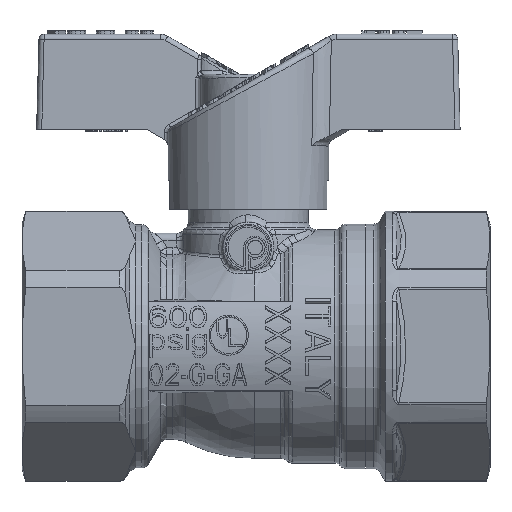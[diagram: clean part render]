
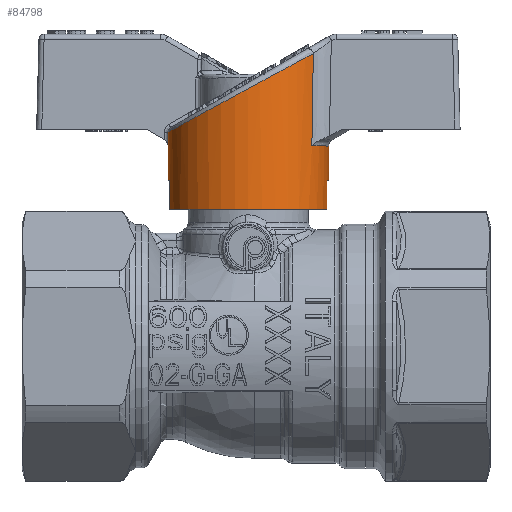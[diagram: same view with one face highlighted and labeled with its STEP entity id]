
A CAD part, top view. The second image highlights one B-rep face of the part: STEP entity #84798.
In plain terms, the highlighted cylindrical face has radius 11 mm (diameter 22 mm), a partial arc.
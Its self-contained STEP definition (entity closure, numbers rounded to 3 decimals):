
#73948=CARTESIAN_POINT('',(0.,8.691,0.));
#73949=DIRECTION('',(0.,-1.,0.));
#73950=DIRECTION('',(-1.,0.,0.));
#73951=AXIS2_PLACEMENT_3D('',#73948,#73949,#73950);
#73953=DIRECTION('',(0.,-1.,0.));
#73954=VECTOR('',#73953,4.691);
#73955=CARTESIAN_POINT('',(-11.,8.691,0.));
#73956=LINE('',#73955,#73954);
#73957=CARTESIAN_POINT('',(0.,4.,0.));
#73958=DIRECTION('',(0.,1.,0.));
#73959=DIRECTION('',(-0.979,0.,-0.205));
#73960=AXIS2_PLACEMENT_3D('',#73957,#73958,#73959);
#73962=DIRECTION('',(0.,1.,0.));
#73963=VECTOR('',#73962,4.);
#73964=CARTESIAN_POINT('',(-10.767,0.,-2.253));
#73965=LINE('',#73964,#73963);
#73966=DIRECTION('',(0.,1.,0.));
#73967=VECTOR('',#73966,4.);
#73968=CARTESIAN_POINT('',(10.767,0.,-2.25));
#73969=LINE('',#73968,#73967);
#73970=CARTESIAN_POINT('',(0.,4.,0.));
#73971=DIRECTION('',(0.,1.,0.));
#73972=DIRECTION('',(1.,0.,0.));
#73973=AXIS2_PLACEMENT_3D('',#73970,#73971,#73972);
#73975=DIRECTION('',(0.,-1.,0.));
#73976=VECTOR('',#73975,4.691);
#73977=CARTESIAN_POINT('',(11.,8.691,0.));
#73978=LINE('',#73977,#73976);
#73979=CARTESIAN_POINT('',(0.,8.691,0.));
#73980=DIRECTION('',(0.,-1.,0.));
#73981=DIRECTION('',(0.999,0.,-0.049));
#73982=AXIS2_PLACEMENT_3D('',#73979,#73980,#73981);
#73984=CARTESIAN_POINT('',(10.989,10.602,
-0.488));
#73985=CARTESIAN_POINT('',(10.975,10.609,
-0.804));
#73986=CARTESIAN_POINT('',(10.92,10.639,
-1.42));
#73987=CARTESIAN_POINT('',(10.774,10.718,
-2.274));
#73988=CARTESIAN_POINT('',(10.563,10.832,
-3.112));
#73989=CARTESIAN_POINT('',(10.284,10.983,
-3.935));
#73990=CARTESIAN_POINT('',(9.944,11.167,
-4.729));
#73991=CARTESIAN_POINT('',(9.549,11.38,
-5.483));
#73992=CARTESIAN_POINT('',(9.102,11.622,
-6.196));
#73993=CARTESIAN_POINT('',(8.596,11.896,
-6.882));
#73994=CARTESIAN_POINT('',(8.008,12.213,
-7.56));
#73995=CARTESIAN_POINT('',(7.308,12.592,-8.243));
#73996=CARTESIAN_POINT('',(6.458,13.052,
-8.93));
#73997=CARTESIAN_POINT('',(5.426,13.609,
-9.598));
#73998=CARTESIAN_POINT('',(4.18,14.283,
-10.21));
#73999=CARTESIAN_POINT('',(2.722,15.071,
-10.697));
#74000=CARTESIAN_POINT('',(1.141,15.926,
-10.98));
#74001=CARTESIAN_POINT('',(-0.425,16.772,
-11.027));
#74002=CARTESIAN_POINT('',(-1.882,17.56,
-10.868));
#74003=CARTESIAN_POINT('',(-3.179,18.261,
-10.556));
#74004=CARTESIAN_POINT('',(-4.307,18.871,
-10.143));
#74005=CARTESIAN_POINT('',(-5.282,19.398,
-9.667));
#74006=CARTESIAN_POINT('',(-6.131,19.857,
-9.149));
#74007=CARTESIAN_POINT('',(-6.86,20.251,
-8.613));
#74008=CARTESIAN_POINT('',(-7.525,20.611,
-8.04));
#74009=CARTESIAN_POINT('',(-8.193,20.972,
-7.364));
#74010=CARTESIAN_POINT('',(-8.665,21.227,-6.787));
#74011=CARTESIAN_POINT('',(-8.899,21.353,
-6.466));
#74051=CARTESIAN_POINT('',(0.,0.,0.));
#74052=DIRECTION('',(0.,-1.,0.));
#74053=DIRECTION('',(-0.979,0.,-0.205));
#74054=AXIS2_PLACEMENT_3D('',#74051,#74052,#74053);
#75950=CARTESIAN_POINT('',(-8.703,8.691,
-6.727));
#75951=CARTESIAN_POINT('',(-8.726,10.082,
-6.698));
#75952=CARTESIAN_POINT('',(-8.769,12.875,
-6.641));
#75953=CARTESIAN_POINT('',(-8.835,17.095,
-6.554));
#75954=CARTESIAN_POINT('',(-8.877,19.93,
-6.496));
#75955=CARTESIAN_POINT('',(-8.899,21.353,
-6.466));
#77106=CARTESIAN_POINT('',(10.989,10.602,
-0.488));
#77107=CARTESIAN_POINT('',(10.989,10.389,
-0.494));
#77108=CARTESIAN_POINT('',(10.988,9.964,
-0.504));
#77109=CARTESIAN_POINT('',(10.988,9.327,
-0.52));
#77110=CARTESIAN_POINT('',(10.987,8.903,
-0.531));
#77111=CARTESIAN_POINT('',(10.987,8.691,
-0.536));
#83063=CARTESIAN_POINT('',(-11.,4.,0.));
#83065=VERTEX_POINT('',#83063);
#83076=CARTESIAN_POINT('',(10.767,0.,-2.25));
#83078=VERTEX_POINT('',#83076);
#83079=CARTESIAN_POINT('',(-10.767,0.,-2.253));
#83081=VERTEX_POINT('',#83079);
#83085=CARTESIAN_POINT('',(10.767,4.,-2.25));
#83086=VERTEX_POINT('',#83085);
#83087=CARTESIAN_POINT('',(-10.767,4.,-2.253));
#83088=VERTEX_POINT('',#83087);
#83133=CARTESIAN_POINT('',(11.,4.,0.));
#83134=VERTEX_POINT('',#83133);
#83140=CARTESIAN_POINT('',(-8.899,21.353,
-6.466));
#83142=VERTEX_POINT('',#83140);
#83166=VERTEX_POINT('',#73984);
#84701=CARTESIAN_POINT('',(-11.,8.691,0.));
#84702=CARTESIAN_POINT('',(-8.703,8.691,
-6.727));
#84703=VERTEX_POINT('',#84701);
#84704=VERTEX_POINT('',#84702);
#84709=CARTESIAN_POINT('',(11.,8.691,0.));
#84711=VERTEX_POINT('',#84709);
#84715=CARTESIAN_POINT('',(10.987,8.691,
-0.536));
#84716=VERTEX_POINT('',#84715);
#84770=CARTESIAN_POINT('',(0.,-0.925,0.));
#84771=DIRECTION('',(0.,1.,0.));
#84772=DIRECTION('',(1.,0.,0.));
#84773=AXIS2_PLACEMENT_3D('',#84770,#84771,#84772);
#84774=CYLINDRICAL_SURFACE('',#84773,11.);
#84775=ORIENTED_EDGE('',*,*,#84757,.F.);
#84776=ORIENTED_EDGE('',*,*,#84746,.T.);
#84778=ORIENTED_EDGE('',*,*,#84777,.F.);
#84780=ORIENTED_EDGE('',*,*,#84779,.F.);
#84782=ORIENTED_EDGE('',*,*,#84781,.T.);
#84784=ORIENTED_EDGE('',*,*,#84783,.T.);
#84786=ORIENTED_EDGE('',*,*,#84785,.F.);
#84787=ORIENTED_EDGE('',*,*,#84734,.F.);
#84789=ORIENTED_EDGE('',*,*,#84788,.F.);
#84791=ORIENTED_EDGE('',*,*,#84790,.F.);
#84793=ORIENTED_EDGE('',*,*,#84792,.T.);
#84795=ORIENTED_EDGE('',*,*,#84794,.F.);
#84796=EDGE_LOOP('',(#84775,#84776,#84778,#84780,#84782,#84784,#84786,#84787,
#84789,#84791,#84793,#84795));
#84797=FACE_OUTER_BOUND('',#84796,.F.);
#84798=ADVANCED_FACE('',(#84797),#84774,.T.);
#73952=CIRCLE('',#73951,11.);
#73961=CIRCLE('',#73960,11.);
#73974=CIRCLE('',#73973,11.);
#73983=CIRCLE('',#73982,11.);
#74012=B_SPLINE_CURVE_WITH_KNOTS('',3,(#73984,#73985,#73986,#73987,#73988,
#73989,#73990,#73991,#73992,#73993,#73994,#73995,#73996,#73997,#73998,#73999,
#74000,#74001,#74002,#74003,#74004,#74005,#74006,#74007,#74008,#74009,#74010,
#74011),.UNSPECIFIED.,.F.,.F.,(4,1,1,1,1,1,1,1,1,1,1,1,1,1,1,1,1,1,1,1,1,1,1,1,
1,4),(0.,0.04,0.08,0.12,0.16,0.2,0.24,0.28,0.32,0.36,0.4,
0.44,0.48,0.52,0.56,0.6,0.64,0.68,0.72,0.76,0.8,0.84,
0.88,0.92,0.96,1.),.UNSPECIFIED.);
#74055=CIRCLE('',#74054,11.);
#75956=B_SPLINE_CURVE_WITH_KNOTS('',3,(#75950,#75951,#75952,#75953,#75954,
#75955),.UNSPECIFIED.,.F.,.F.,(4,1,1,4),(0.,0.333,
0.667,1.),.UNSPECIFIED.);
#77112=B_SPLINE_CURVE_WITH_KNOTS('',3,(#77106,#77107,#77108,#77109,#77110,
#77111),.UNSPECIFIED.,.F.,.F.,(4,1,1,4),(0.,0.333,
0.667,1.),.UNSPECIFIED.);
#84734=EDGE_CURVE('',#84711,#83134,#73978,.T.);
#84746=EDGE_CURVE('',#84703,#83065,#73956,.T.);
#84757=EDGE_CURVE('',#84703,#84704,#73952,.T.);
#84777=EDGE_CURVE('',#83088,#83065,#73961,.T.);
#84779=EDGE_CURVE('',#83081,#83088,#73965,.T.);
#84781=EDGE_CURVE('',#83081,#83078,#74055,.T.);
#84783=EDGE_CURVE('',#83078,#83086,#73969,.T.);
#84785=EDGE_CURVE('',#83134,#83086,#73974,.T.);
#84788=EDGE_CURVE('',#84716,#84711,#73983,.T.);
#84790=EDGE_CURVE('',#83166,#84716,#77112,.T.);
#84792=EDGE_CURVE('',#83166,#83142,#74012,.T.);
#84794=EDGE_CURVE('',#84704,#83142,#75956,.T.);
